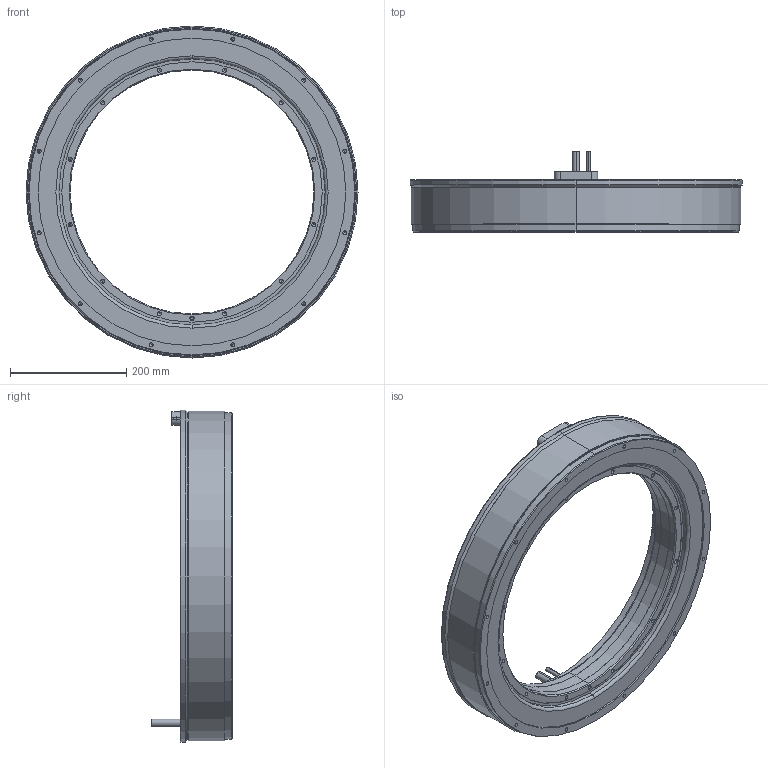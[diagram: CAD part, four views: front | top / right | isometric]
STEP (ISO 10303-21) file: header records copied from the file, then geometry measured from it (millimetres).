
FILE_DESCRIPTION (( 'STEP AP203' ), '1' );
FILE_NAME ('TM-2-G5-SA0(J0).STEP', '2023-06-06T05:05:06', ( '' ), ( '' ), 'SwSTEP 2.0', 'SolidWorks 2015', '' );
FILE_SCHEMA (( 'CONFIG_CONTROL_DESIGN' ));
Length unit declared in the file: millimetre
Products named in the file (3): TM-2-G5(J0)_Rotor; TM-2-G5-SA0(J0); TM-2-G5-SA0(J0)_Stator
Assembly tree (2 placements, depth 2):
  TM-2-G5-SA0(J0)
    TM-2-G5-SA0(J0)_Stator
    TM-2-G5(J0)_Rotor
Bounding box: 572 x 139 x 572 mm (x, y, z)
Volume: 8967643.6 mm3; surface area: 693248.1 mm2
Topology: 2 solids, 2 shells, 343 faces, 816 edges, 445 vertices
Faces by surface type: cylinder 158, cone 126, plane 51, torus 8
Entity records: 9431 total; most frequent: DIRECTION 1760, CARTESIAN_POINT 1503, ORIENTED_EDGE 1420, EDGE_CURVE 710, AXIS2_PLACEMENT_3D 702, VERTEX_POINT 445, EDGE_LOOP 421, VECTOR 356
